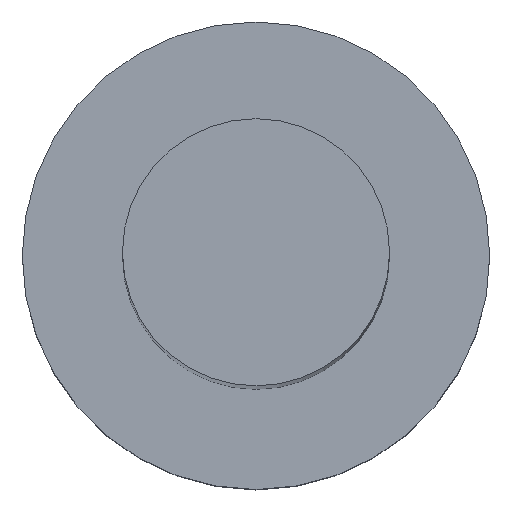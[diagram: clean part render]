
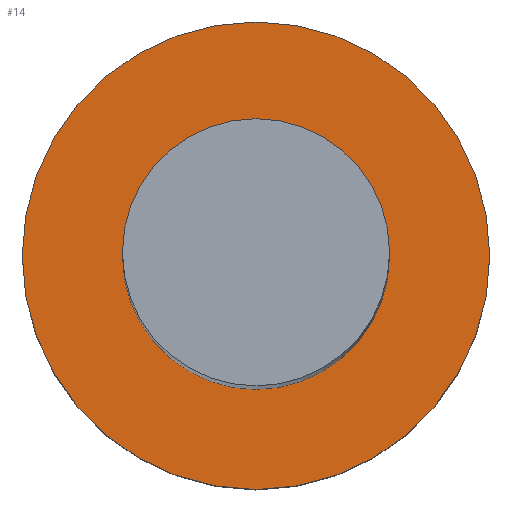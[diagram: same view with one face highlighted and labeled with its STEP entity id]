
A CAD part, top view. The second image highlights one B-rep face of the part: STEP entity #14.
In plain terms, the highlighted planar face has unit normal (0, 0, 1).
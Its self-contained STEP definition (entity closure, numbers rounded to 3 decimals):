
#1 = CARTESIAN_POINT ( 'NONE',  ( 3.5, 0., 0. ) ) ;
#2 = AXIS2_PLACEMENT_3D ( 'NONE', #22, #139, #119 ) ;
#14 = ADVANCED_FACE ( 'NONE', ( #40, #203 ), #225, .T. ) ;
#17 = ORIENTED_EDGE ( 'NONE', *, *, #91, .T. ) ;
#22 = CARTESIAN_POINT ( 'NONE',  ( 0., 0., 0. ) ) ;
#25 = CIRCLE ( 'NONE', #29, 3.5 ) ;
#26 = ORIENTED_EDGE ( 'NONE', *, *, #178, .T. ) ;
#29 = AXIS2_PLACEMENT_3D ( 'NONE', #143, #84, #65 ) ;
#40 = FACE_BOUND ( 'NONE', #197, .T. ) ;
#44 = CIRCLE ( 'NONE', #110, 3.5 ) ;
#52 = AXIS2_PLACEMENT_3D ( 'NONE', #212, #63, #170 ) ;
#54 = VERTEX_POINT ( 'NONE', #120 ) ;
#60 = VERTEX_POINT ( 'NONE', #1 ) ;
#63 = DIRECTION ( 'NONE',  ( 0., 0., 1. ) ) ;
#65 = DIRECTION ( 'NONE',  ( 1., 0., 0. ) ) ;
#76 = CARTESIAN_POINT ( 'NONE',  ( 0., 0., 0. ) ) ;
#84 = DIRECTION ( 'NONE',  ( 0., 0., 1. ) ) ;
#86 = EDGE_LOOP ( 'NONE', ( #17, #26 ) ) ;
#88 = VERTEX_POINT ( 'NONE', #141 ) ;
#91 = EDGE_CURVE ( 'NONE', #54, #60, #44, .T. ) ;
#96 = CARTESIAN_POINT ( 'NONE',  ( 2., 0., 0. ) ) ;
#102 = DIRECTION ( 'NONE',  ( 1., 0., 0. ) ) ;
#106 = VERTEX_POINT ( 'NONE', #96 ) ;
#110 = AXIS2_PLACEMENT_3D ( 'NONE', #255, #157, #202 ) ;
#116 = AXIS2_PLACEMENT_3D ( 'NONE', #76, #160, #102 ) ;
#117 = EDGE_CURVE ( 'NONE', #88, #106, #191, .T. ) ;
#119 = DIRECTION ( 'NONE',  ( 1., 0., 0. ) ) ;
#120 = CARTESIAN_POINT ( 'NONE',  ( -3.5, 0., 0. ) ) ;
#139 = DIRECTION ( 'NONE',  ( 0., 0., 1. ) ) ;
#141 = CARTESIAN_POINT ( 'NONE',  ( -2., 0., 0. ) ) ;
#143 = CARTESIAN_POINT ( 'NONE',  ( 0., 0., 0. ) ) ;
#157 = DIRECTION ( 'NONE',  ( 0., 0., 1. ) ) ;
#158 = CIRCLE ( 'NONE', #52, 2. ) ;
#160 = DIRECTION ( 'NONE',  ( 0., 0., 1. ) ) ;
#170 = DIRECTION ( 'NONE',  ( 1., 0., 0. ) ) ;
#178 = EDGE_CURVE ( 'NONE', #60, #54, #25, .T. ) ;
#191 = CIRCLE ( 'NONE', #116, 2. ) ;
#197 = EDGE_LOOP ( 'NONE', ( #223, #221 ) ) ;
#202 = DIRECTION ( 'NONE',  ( 1., 0., 0. ) ) ;
#203 = FACE_OUTER_BOUND ( 'NONE', #86, .T. ) ;
#212 = CARTESIAN_POINT ( 'NONE',  ( 0., 0., 0. ) ) ;
#221 = ORIENTED_EDGE ( 'NONE', *, *, #227, .F. ) ;
#223 = ORIENTED_EDGE ( 'NONE', *, *, #117, .F. ) ;
#225 = PLANE ( 'NONE',  #2 ) ;
#227 = EDGE_CURVE ( 'NONE', #106, #88, #158, .T. ) ;
#255 = CARTESIAN_POINT ( 'NONE',  ( 0., 0., 0. ) ) ;
